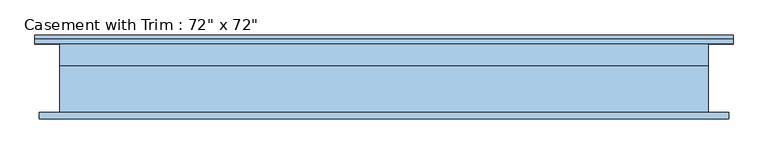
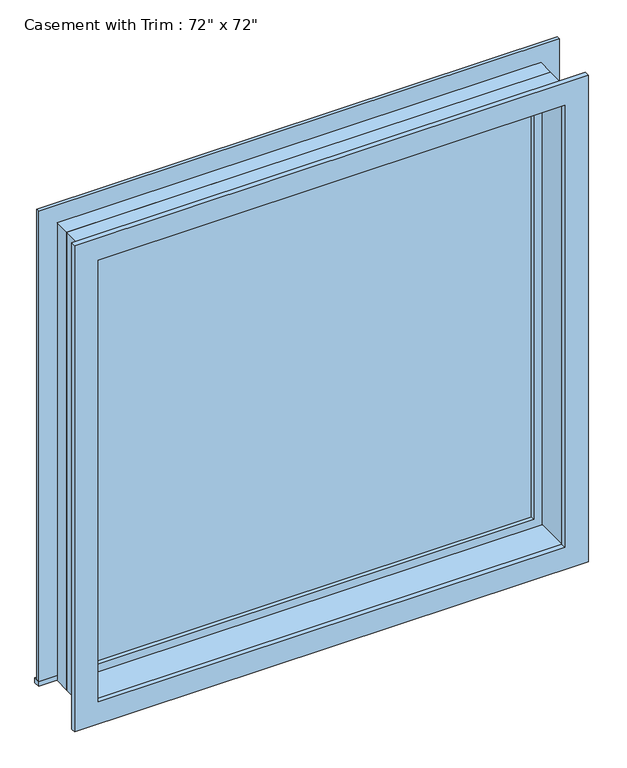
"""IFC4 building model written with IfcOpenShell, lengths in millimetres: window geometry."""

from ifc_helpers import new_model, si_unit, frame, origin, place, context, project, spatial, polyline, outline, extrude, source, transform, mapped, element, save


def window_bde21944(model_context):
    return source(origin(), model_context, "Body", "SweptSolid", [
        extrude(outline(polyline([(-984.25, 122.2375), (984.25, 122.2375), (984.25, 96.8375), (-984.25, 96.8375), (-984.25, 122.2375)])), frame((0.0, 0.0, 304.8), z_axis=(0.0, 0.0, 1.0), x_axis=(1.0, 0.0, 0.0)), (0.0, 0.0, 1.0), 19.05),
        extrude(outline(polyline([(2114.55, -895.35), (2114.55, 895.35), (323.85, 895.35), (323.85, 984.25), (2203.45, 984.25), (2203.45, -984.25), (323.85, -984.25), (323.85, -895.35), (2114.55, -895.35)])), frame((0.0, 96.8375, 0.0), z_axis=(0.0, 1.0, 0.0), x_axis=(0.0, 0.0, 1.0)), (0.0, 0.0, 1.0), 12.7),
        extrude(outline(polyline([(2190.75, 971.55), (2190.75, -971.55), (247.65, -971.55), (247.65, 971.55), (2190.75, 971.55)]), holes=[polyline([(2101.85, 882.65), (336.55, 882.65), (336.55, -882.65), (2101.85, -882.65), (2101.85, 882.65)])]), frame((0.0, -115.8875, 0.0), z_axis=(0.0, 1.0, 0.0), x_axis=(0.0, 0.0, 1.0)), (0.0, 0.0, 1.0), 19.05),
        extrude(outline(polyline([(850.9, 49.2125), (-850.9, 49.2125), (-850.9, 61.9125), (850.9, 61.9125), (850.9, 49.2125)])), frame((0.0, 0.0, 368.3), z_axis=(0.0, 0.0, 1.0), x_axis=(1.0, 0.0, 0.0)), (0.0, 0.0, 1.0), 1701.8),
        extrude(outline(polyline([(2114.55, -895.35), (323.85, -895.35), (323.85, 895.35), (2114.55, 895.35), (2114.55, -895.35)]), holes=[polyline([(2070.1, -850.9), (2070.1, 850.9), (368.3, 850.9), (368.3, -850.9), (2070.1, -850.9)])]), frame((0.0, 33.3375, 0.0), z_axis=(0.0, 1.0, 0.0), x_axis=(0.0, 0.0, 1.0)), (0.0, 0.0, 1.0), 44.45),
        extrude(outline(polyline([(2133.6, -914.4), (304.8, -914.4), (304.8, 914.4), (2133.6, 914.4), (2133.6, -914.4)]), holes=[polyline([(2101.85, -882.65), (2101.85, 882.65), (336.55, 882.65), (336.55, -882.65), (2101.85, -882.65)])]), frame((0.0, -96.8375, 0.0), z_axis=(0.0, 1.0, 0.0), x_axis=(0.0, 0.0, 1.0)), (0.0, 0.0, 1.0), 130.175),
        extrude(outline(polyline([(2133.6, 914.4), (2133.6, -914.4), (304.8, -914.4), (304.8, 914.4), (2133.6, 914.4)]), holes=[polyline([(2114.55, 895.35), (323.85, 895.35), (323.85, -895.35), (2114.55, -895.35), (2114.55, 895.35)])]), frame((0.0, 33.3375, 0.0), z_axis=(0.0, 1.0, 0.0), x_axis=(0.0, 0.0, 1.0)), (0.0, 0.0, 1.0), 63.5),
    ])


if __name__ == "__main__":
    model = new_model("IFC4")
    model_context = context("Model", 3, world=origin())
    ifc_project = project(units=[si_unit("LENGTHUNIT", "METRE", prefix="MILLI")], contexts=[model_context])
    site = spatial("IfcSite", under=ifc_project)
    building = spatial("IfcBuilding", under=site)
    placement = place(None, origin())
    window_shape = window_bde21944(model_context)
    element("IfcWindow", 1, ObjectType="Casement with Trim : 72\" x 72\"", at=placement, inside=building, context=model_context, shape_type="MappedRepresentation", body=[
        mapped(window_shape, transform((0.0, 0.0, 0.0), x_axis=(1.0, 0.0, 0.0), y_axis=(0.0, 1.0, 0.0), z_axis=(0.0, 0.0, 1.0))),
    ])
    save(model, "model.ifc")
